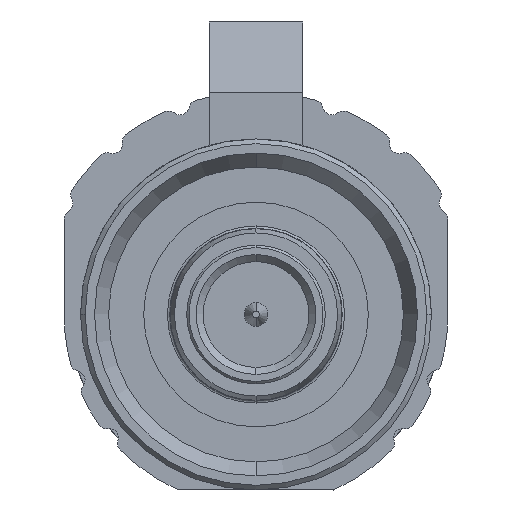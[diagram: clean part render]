
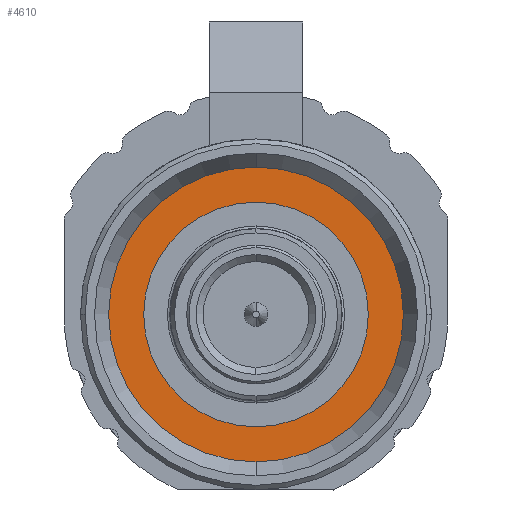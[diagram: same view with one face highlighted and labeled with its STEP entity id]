
A CAD part, front view. The second image highlights one B-rep face of the part: STEP entity #4610.
In plain terms, the highlighted planar face has unit normal (0, -1, 0).
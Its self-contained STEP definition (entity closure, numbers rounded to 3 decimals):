
#380=CARTESIAN_POINT('',(0.,-2.04,0.));
#381=DIRECTION('',(0.,1.,0.));
#382=DIRECTION('',(0.,0.,-1.));
#383=AXIS2_PLACEMENT_3D('',#380,#381,#382);
#385=CARTESIAN_POINT('',(0.,-2.04,0.));
#386=DIRECTION('',(0.,1.,0.));
#387=DIRECTION('',(0.,0.,1.));
#388=AXIS2_PLACEMENT_3D('',#385,#386,#387);
#390=CARTESIAN_POINT('',(0.,-2.04,0.));
#391=DIRECTION('',(0.,-1.,0.));
#392=DIRECTION('',(1.,0.,0.));
#393=AXIS2_PLACEMENT_3D('',#390,#391,#392);
#395=CARTESIAN_POINT('',(0.,-2.04,0.));
#396=DIRECTION('',(0.,-1.,0.));
#397=DIRECTION('',(-1.,0.,0.));
#398=AXIS2_PLACEMENT_3D('',#395,#396,#397);
#3366=CARTESIAN_POINT('',(2.4,-2.04,0.));
#3367=VERTEX_POINT('',#3366);
#3368=CARTESIAN_POINT('',(-2.4,-2.04,0.));
#3369=VERTEX_POINT('',#3368);
#3374=CARTESIAN_POINT('',(0.,-2.04,3.15));
#3375=VERTEX_POINT('',#3374);
#3376=CARTESIAN_POINT('',(0.,-2.04,-3.15));
#3377=VERTEX_POINT('',#3376);
#4595=CARTESIAN_POINT('',(0.,-2.04,0.));
#4596=DIRECTION('',(0.,1.,0.));
#4597=DIRECTION('',(0.,0.,-1.));
#4598=AXIS2_PLACEMENT_3D('',#4595,#4596,#4597);
#4599=PLANE('',#4598);
#4601=ORIENTED_EDGE('',*,*,#4600,.T.);
#4603=ORIENTED_EDGE('',*,*,#4602,.T.);
#4604=EDGE_LOOP('',(#4601,#4603));
#4605=FACE_OUTER_BOUND('',#4604,.F.);
#4606=ORIENTED_EDGE('',*,*,#4561,.T.);
#4607=ORIENTED_EDGE('',*,*,#4582,.T.);
#4608=EDGE_LOOP('',(#4606,#4607));
#4609=FACE_BOUND('',#4608,.F.);
#384=CIRCLE('',#383,3.15);
#389=CIRCLE('',#388,3.15);
#394=CIRCLE('',#393,2.4);
#399=CIRCLE('',#398,2.4);
#4561=EDGE_CURVE('',#3367,#3369,#394,.T.);
#4582=EDGE_CURVE('',#3369,#3367,#399,.T.);
#4600=EDGE_CURVE('',#3377,#3375,#384,.T.);
#4602=EDGE_CURVE('',#3375,#3377,#389,.T.);
#4610=ADVANCED_FACE('',(#4605,#4609),#4599,.F.);
